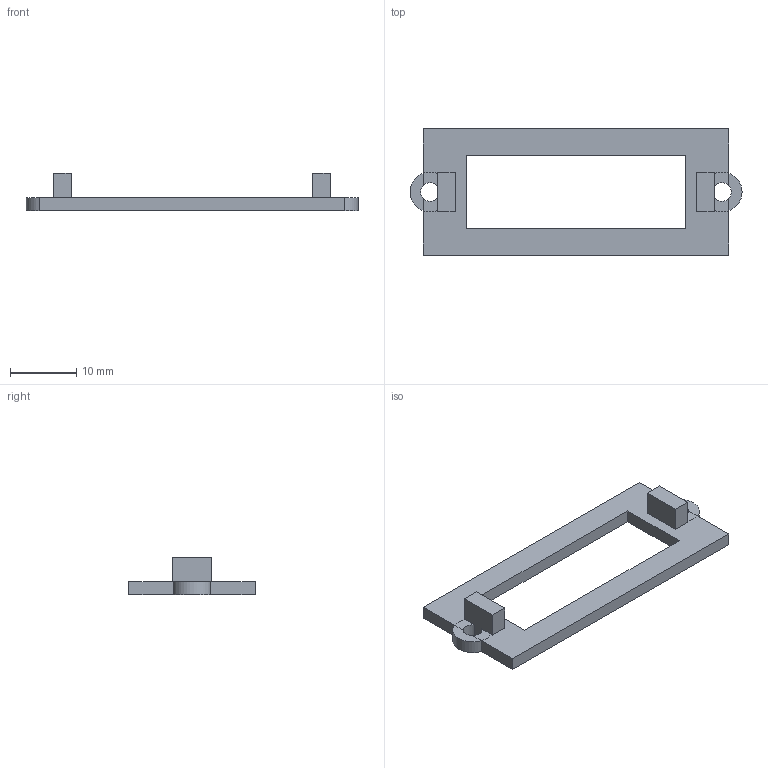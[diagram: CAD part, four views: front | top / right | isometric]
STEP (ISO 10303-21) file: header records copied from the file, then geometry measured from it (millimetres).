
FILE_DESCRIPTION(('Open CASCADE Model'),'2;1');
FILE_NAME('Open CASCADE Shape Model','2026-11-19T15:07:55',('Author'),( 'Open CASCADE'),'Open CASCADE STEP processor 8.0','Open CASCADE 8.0' ,'Unknown');
FILE_SCHEMA(('AUTOMOTIVE_DESIGN { 1 0 10303 214 1 1 1 1 }'));
Length unit declared in the file: millimetre
Products named in the file (1): Open CASCADE STEP translator 8.0 8
Bounding box: 49.99 x 19 x 5.7 mm (x, y, z)
Volume: 1146.6 mm3; surface area: 1636.2 mm2
Topology: 1 solids, 1 shells, 46 faces, 126 edges, 78 vertices
Faces by surface type: plane 40, cylinder 6
Entity records: 3100 total; most frequent: DIRECTION 506, CARTESIAN_POINT 503, LINE 296, VECTOR 296, ORIENTED_EDGE 252, PCURVE 252, DEFINITIONAL_REPRESENTATION 252, EDGE_CURVE 126
